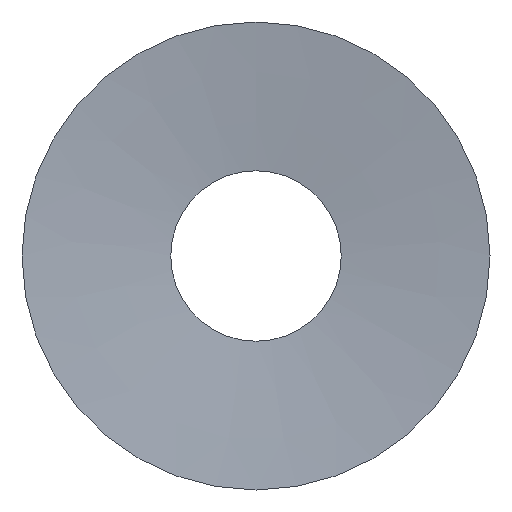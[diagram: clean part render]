
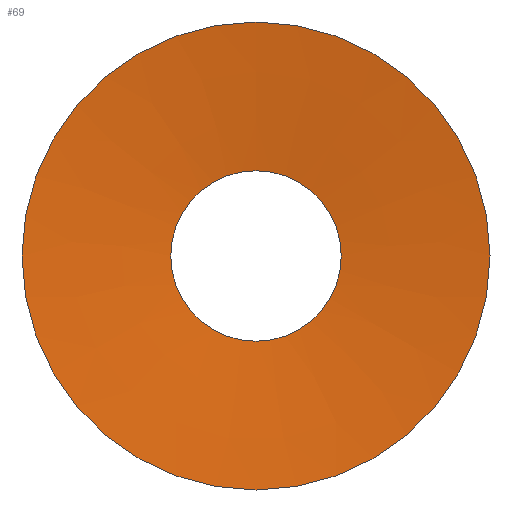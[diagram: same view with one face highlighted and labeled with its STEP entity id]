
A CAD part, front view. The second image highlights one B-rep face of the part: STEP entity #69.
In plain terms, the highlighted conical face has half-angle 83.629 degrees and reference radius 9.55 mm.
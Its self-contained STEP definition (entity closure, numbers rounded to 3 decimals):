
#19=FACE_OUTER_BOUND('',#23,.T.);
#23=EDGE_LOOP('',(#57,#58,#59,#60));
#27=LINE('',#137,#31);
#31=VECTOR('',#118,9.55);
#35=CIRCLE('',#98,5.1);
#36=CIRCLE('',#100,14.);
#39=VERTEX_POINT('',#132);
#40=VERTEX_POINT('',#136);
#45=EDGE_CURVE('',#39,#39,#35,.T.);
#46=EDGE_CURVE('',#39,#40,#27,.T.);
#47=EDGE_CURVE('',#40,#40,#36,.T.);
#57=ORIENTED_EDGE('',*,*,#45,.T.);
#58=ORIENTED_EDGE('',*,*,#46,.T.);
#59=ORIENTED_EDGE('',*,*,#47,.F.);
#60=ORIENTED_EDGE('',*,*,#46,.F.);
#66=CONICAL_SURFACE('',#99,9.55,1.46);
#69=ADVANCED_FACE('',(#19),#66,.F.);
#98=AXIS2_PLACEMENT_3D('',#134,#114,#115);
#99=AXIS2_PLACEMENT_3D('',#135,#116,#117);
#100=AXIS2_PLACEMENT_3D('',#138,#119,#120);
#114=DIRECTION('center_axis',(0.,1.,0.));
#115=DIRECTION('ref_axis',(1.,0.,0.));
#116=DIRECTION('center_axis',(0.,-1.,0.));
#117=DIRECTION('ref_axis',(0.,0.,-1.));
#118=DIRECTION('',(0.,-0.111,0.994));
#119=DIRECTION('center_axis',(0.,1.,0.));
#120=DIRECTION('ref_axis',(1.,0.,0.));
#132=CARTESIAN_POINT('',(0.,0.994,5.1));
#134=CARTESIAN_POINT('Origin',(0.,0.994,0.));
#135=CARTESIAN_POINT('Origin',(0.,0.497,0.));
#136=CARTESIAN_POINT('',(0.,0.,14.));
#137=CARTESIAN_POINT('',(0.,0.497,9.55));
#138=CARTESIAN_POINT('Origin',(0.,0.,0.));
